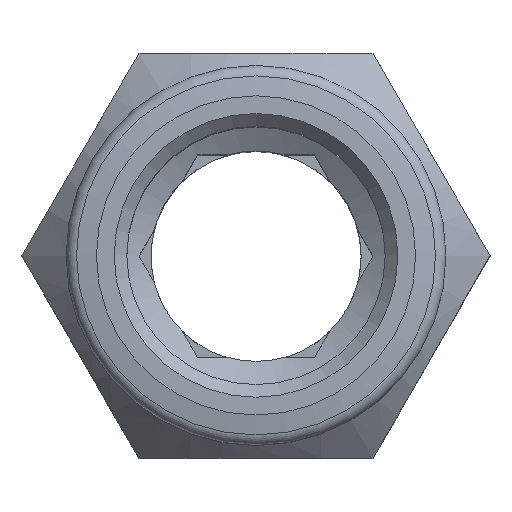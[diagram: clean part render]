
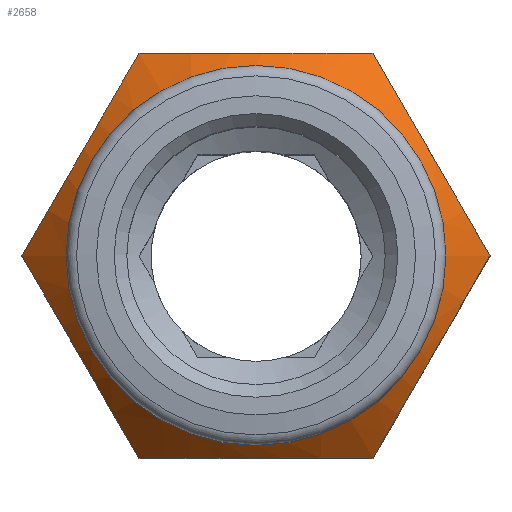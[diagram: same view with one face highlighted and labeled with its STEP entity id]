
A CAD part, top view. The second image highlights one B-rep face of the part: STEP entity #2658.
In plain terms, the highlighted conical face has half-angle 45 degrees and reference radius 10.964 mm.
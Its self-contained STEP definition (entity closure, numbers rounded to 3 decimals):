
#1234=HYPERBOLA('',#2499,8.,8.);
#1236=HYPERBOLA('',#2502,8.,8.);
#1239=HYPERBOLA('',#2506,8.,8.);
#1240=HYPERBOLA('',#2508,8.,8.);
#1243=HYPERBOLA('',#2513,8.,8.);
#1244=HYPERBOLA('',#2514,8.,8.);
#1263=CONICAL_SURFACE('',#2511,10.964,45.);
#1313=ORIENTED_EDGE('',*,*,#1654,.F.);
#1314=ORIENTED_EDGE('',*,*,#1655,.F.);
#1315=ORIENTED_EDGE('',*,*,#1656,.F.);
#1316=ORIENTED_EDGE('',*,*,#1650,.F.);
#1317=ORIENTED_EDGE('',*,*,#1649,.F.);
#1318=ORIENTED_EDGE('',*,*,#1645,.F.);
#1319=ORIENTED_EDGE('',*,*,#1642,.F.);
#1511=CIRCLE('',#2512,7.5);
#1557=VERTEX_POINT('',#2254);
#1559=VERTEX_POINT('',#2258);
#1561=VERTEX_POINT('',#2263);
#1563=VERTEX_POINT('',#2269);
#1564=VERTEX_POINT('',#2275);
#1566=VERTEX_POINT('',#2282);
#1567=VERTEX_POINT('',#2284);
#1642=EDGE_CURVE('',#1559,#1557,#1234,.T.);
#1645=EDGE_CURVE('',#1557,#1561,#1236,.T.);
#1649=EDGE_CURVE('',#1561,#1563,#1239,.T.);
#1650=EDGE_CURVE('',#1563,#1564,#1240,.T.);
#1654=EDGE_CURVE('',#1566,#1566,#1511,.T.);
#1655=EDGE_CURVE('',#1567,#1559,#1243,.T.);
#1656=EDGE_CURVE('',#1564,#1567,#1244,.T.);
#1749=EDGE_LOOP('',(#1313));
#1750=EDGE_LOOP('',(#1314,#1315,#1316,#1317,#1318,#1319));
#1837=FACE_BOUND('',#1749,.T.);
#1838=FACE_BOUND('',#1750,.T.);
#1952=DIRECTION('',(0.866,0.,0.5));
#1953=DIRECTION('',(0.,-1.,0.));
#1959=DIRECTION('',(0.,0.,1.));
#1960=DIRECTION('',(0.,-1.,0.));
#1968=DIRECTION('',(-0.866,0.,0.5));
#1969=DIRECTION('',(0.,-1.,0.));
#1972=DIRECTION('',(-0.866,0.,-0.5));
#1973=DIRECTION('',(0.,-1.,0.));
#1979=DIRECTION('',(0.,-1.,0.));
#1980=DIRECTION('',(1.,0.,0.));
#1981=DIRECTION('',(0.,1.,0.));
#1982=DIRECTION('',(7.5,0.,0.));
#1983=DIRECTION('',(0.866,0.,-0.5));
#1984=DIRECTION('',(0.,-1.,0.));
#1985=DIRECTION('',(0.,0.,-1.));
#1986=DIRECTION('',(0.,-1.,0.));
#2254=CARTESIAN_POINT('',(19.484,32.49,-8.));
#2258=CARTESIAN_POINT('',(14.866,32.49,0.));
#2260=CARTESIAN_POINT('',(17.175,41.728,-4.));
#2263=CARTESIAN_POINT('',(28.722,32.49,-8.));
#2266=CARTESIAN_POINT('',(24.103,41.728,-8.));
#2269=CARTESIAN_POINT('',(33.341,32.49,0.));
#2273=CARTESIAN_POINT('',(31.031,41.728,-4.));
#2275=CARTESIAN_POINT('',(28.722,32.49,8.));
#2276=CARTESIAN_POINT('',(31.031,41.728,4.));
#2281=CARTESIAN_POINT('',(24.103,30.764,0.));
#2282=CARTESIAN_POINT('',(31.603,34.228,0.));
#2283=CARTESIAN_POINT('',(24.103,34.228,0.));
#2284=CARTESIAN_POINT('',(19.484,32.49,8.));
#2285=CARTESIAN_POINT('',(17.175,41.728,4.));
#2286=CARTESIAN_POINT('',(24.103,41.728,8.));
#2499=AXIS2_PLACEMENT_3D('',#2260,#1952,#1953);
#2502=AXIS2_PLACEMENT_3D('',#2266,#1959,#1960);
#2506=AXIS2_PLACEMENT_3D('',#2273,#1968,#1969);
#2508=AXIS2_PLACEMENT_3D('',#2276,#1972,#1973);
#2511=AXIS2_PLACEMENT_3D('',#2281,#1979,#1980);
#2512=AXIS2_PLACEMENT_3D('',#2283,#1981,#1982);
#2513=AXIS2_PLACEMENT_3D('',#2285,#1983,#1984);
#2514=AXIS2_PLACEMENT_3D('',#2286,#1985,#1986);
#2658=ADVANCED_FACE('',(#1837,#1838),#1263,.T.);
